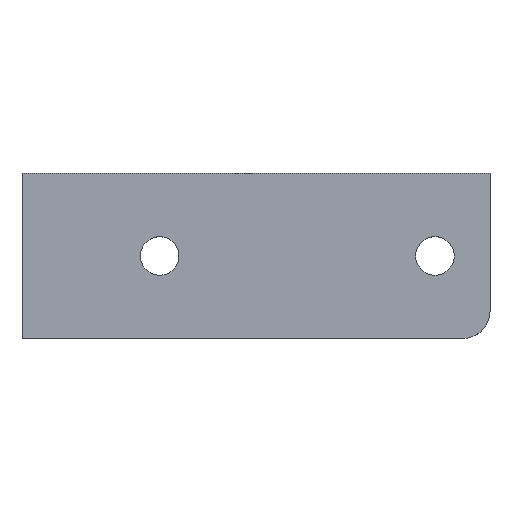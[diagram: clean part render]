
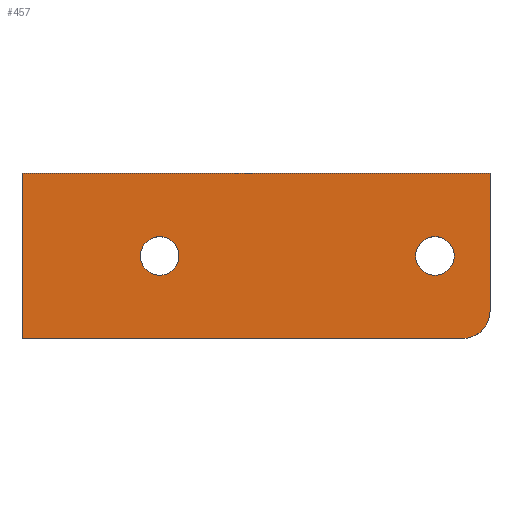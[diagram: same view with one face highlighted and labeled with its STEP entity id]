
A CAD part, top view. The second image highlights one B-rep face of the part: STEP entity #457.
In plain terms, the highlighted planar face has unit normal (0, 0, 1).
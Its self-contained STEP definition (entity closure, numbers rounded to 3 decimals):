
#218=CIRCLE('',#440,10.);
#219=CIRCLE('',#441,7.);
#220=CIRCLE('',#442,7.);
#236=ORIENTED_EDGE('',*,*,#312,.T.);
#237=ORIENTED_EDGE('',*,*,#301,.T.);
#238=ORIENTED_EDGE('',*,*,#313,.F.);
#239=ORIENTED_EDGE('',*,*,#309,.F.);
#240=ORIENTED_EDGE('',*,*,#314,.T.);
#241=ORIENTED_EDGE('',*,*,#315,.F.);
#242=ORIENTED_EDGE('',*,*,#316,.F.);
#261=VECTOR('',#352,1.);
#266=VECTOR('',#367,1.);
#269=VECTOR('',#372,1.);
#270=VECTOR('',#373,1.);
#274=LINE('',#398,#261);
#279=LINE('',#415,#266);
#282=LINE('',#420,#269);
#283=LINE('',#421,#270);
#287=VERTEX_POINT('',#395);
#288=VERTEX_POINT('',#397);
#294=VERTEX_POINT('',#413);
#295=VERTEX_POINT('',#414);
#296=VERTEX_POINT('',#419);
#297=VERTEX_POINT('',#423);
#298=VERTEX_POINT('',#425);
#301=EDGE_CURVE('',#288,#287,#274,.T.);
#309=EDGE_CURVE('',#294,#295,#279,.T.);
#312=EDGE_CURVE('',#296,#288,#282,.T.);
#313=EDGE_CURVE('',#295,#287,#283,.T.);
#314=EDGE_CURVE('',#294,#296,#218,.T.);
#315=EDGE_CURVE('',#297,#297,#219,.T.);
#316=EDGE_CURVE('',#298,#298,#220,.T.);
#323=EDGE_LOOP('',(#236,#237,#238,#239,#240));
#324=EDGE_LOOP('',(#241));
#325=EDGE_LOOP('',(#242));
#338=FACE_BOUND('',#323,.T.);
#339=FACE_BOUND('',#324,.T.);
#340=FACE_BOUND('',#325,.T.);
#352=DIRECTION('',(-170.,0.,0.));
#367=DIRECTION('',(-160.,0.,0.));
#370=DIRECTION('',(0.,0.,1.));
#371=DIRECTION('',(0.,-1.,0.));
#372=DIRECTION('',(0.,50.,0.));
#373=DIRECTION('',(0.,60.,0.));
#374=DIRECTION('',(0.,0.,1.));
#375=DIRECTION('',(0.,-10.,0.));
#376=DIRECTION('',(0.,0.,1.));
#377=DIRECTION('',(0.,-7.,0.));
#378=DIRECTION('',(0.,0.,1.));
#379=DIRECTION('',(0.,-7.,0.));
#395=CARTESIAN_POINT('',(0.,30.,5.));
#397=CARTESIAN_POINT('',(170.,30.,5.));
#398=CARTESIAN_POINT('',(170.,30.,5.));
#413=CARTESIAN_POINT('',(160.,-30.,5.));
#414=CARTESIAN_POINT('',(0.,-30.,5.));
#415=CARTESIAN_POINT('',(160.,-30.,5.));
#418=CARTESIAN_POINT('',(170.,30.,5.));
#419=CARTESIAN_POINT('',(170.,-20.,5.));
#420=CARTESIAN_POINT('',(170.,-20.,5.));
#421=CARTESIAN_POINT('',(0.,-30.,5.));
#422=CARTESIAN_POINT('',(160.,-20.,5.));
#423=CARTESIAN_POINT('',(150.,-7.,5.));
#424=CARTESIAN_POINT('',(150.,0.,5.));
#425=CARTESIAN_POINT('',(50.,-7.,5.));
#426=CARTESIAN_POINT('',(50.,0.,5.));
#439=AXIS2_PLACEMENT_3D('',#418,#370,#371);
#440=AXIS2_PLACEMENT_3D('',#422,#374,#375);
#441=AXIS2_PLACEMENT_3D('',#424,#376,#377);
#442=AXIS2_PLACEMENT_3D('',#426,#378,#379);
#451=PLANE('',#439);
#457=ADVANCED_FACE('',(#338,#339,#340),#451,.T.);
